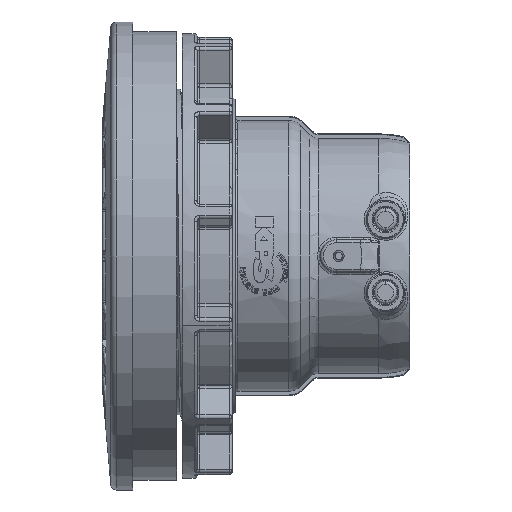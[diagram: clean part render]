
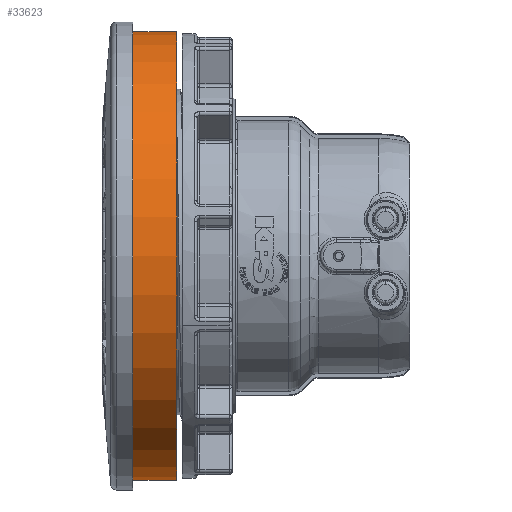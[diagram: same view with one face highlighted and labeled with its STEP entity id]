
A CAD part, left-side view. The second image highlights one B-rep face of the part: STEP entity #33623.
In plain terms, the highlighted cylindrical face has radius 76.75 mm (diameter 153.5 mm), a partial arc.
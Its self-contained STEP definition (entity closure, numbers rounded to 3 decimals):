
#1170 = CIRCLE ( 'NONE', #46920, 76.75 ) ;
#2540 = DIRECTION ( 'NONE',  ( 0., 0., -1. ) ) ;
#2887 = AXIS2_PLACEMENT_3D ( 'NONE', #66031, #31479, #71850 ) ;
#3348 = EDGE_LOOP ( 'NONE', ( #27920, #17129, #35239, #12982 ) ) ;
#4166 = CARTESIAN_POINT ( 'NONE',  ( 0., 52.391, 76.75 ) ) ;
#4608 = VERTEX_POINT ( 'NONE', #63897 ) ;
#5006 = CARTESIAN_POINT ( 'NONE',  ( 0., 67.391, -76.75 ) ) ;
#7124 = EDGE_CURVE ( 'NONE', #8925, #55274, #1170, .T. ) ;
#8925 = VERTEX_POINT ( 'NONE', #4166 ) ;
#12982 = ORIENTED_EDGE ( 'NONE', *, *, #7124, .F. ) ;
#17129 = ORIENTED_EDGE ( 'NONE', *, *, #50232, .T. ) ;
#19441 = CIRCLE ( 'NONE', #2887, 76.75 ) ;
#22498 = CARTESIAN_POINT ( 'NONE',  ( 0., 52.391, -76.75 ) ) ;
#22742 = LINE ( 'NONE', #46595, #51671 ) ;
#27920 = ORIENTED_EDGE ( 'NONE', *, *, #70549, .F. ) ;
#31479 = DIRECTION ( 'NONE',  ( 0., -1., 0. ) ) ;
#32243 = VECTOR ( 'NONE', #72387, 1000. ) ;
#33623 = ADVANCED_FACE ( 'NONE', ( #35831 ), #74702, .T. ) ;
#35239 = ORIENTED_EDGE ( 'NONE', *, *, #53667, .T. ) ;
#35831 = FACE_OUTER_BOUND ( 'NONE', #3348, .T. ) ;
#37039 = DIRECTION ( 'NONE',  ( 0., -1., 0. ) ) ;
#38064 = CARTESIAN_POINT ( 'NONE',  ( 0., 52.391, 76.75 ) ) ;
#40808 = DIRECTION ( 'NONE',  ( 0., -1., 0. ) ) ;
#41155 = AXIS2_PLACEMENT_3D ( 'NONE', #65000, #47360, #68932 ) ;
#46595 = CARTESIAN_POINT ( 'NONE',  ( 0., 52.391, -76.75 ) ) ;
#46920 = AXIS2_PLACEMENT_3D ( 'NONE', #71597, #37039, #2540 ) ;
#47360 = DIRECTION ( 'NONE',  ( 0., -1., 0. ) ) ;
#50232 = EDGE_CURVE ( 'NONE', #4608, #72905, #19441, .T. ) ;
#51671 = VECTOR ( 'NONE', #40808, 1000. ) ;
#53667 = EDGE_CURVE ( 'NONE', #72905, #55274, #22742, .T. ) ;
#55274 = VERTEX_POINT ( 'NONE', #22498 ) ;
#61117 = LINE ( 'NONE', #38064, #32243 ) ;
#63897 = CARTESIAN_POINT ( 'NONE',  ( 0., 67.391, 76.75 ) ) ;
#65000 = CARTESIAN_POINT ( 'NONE',  ( 0., 52.391, 0. ) ) ;
#66031 = CARTESIAN_POINT ( 'NONE',  ( 0., 67.391, 0. ) ) ;
#68932 = DIRECTION ( 'NONE',  ( 0., 0., -1. ) ) ;
#70549 = EDGE_CURVE ( 'NONE', #4608, #8925, #61117, .T. ) ;
#71597 = CARTESIAN_POINT ( 'NONE',  ( 0., 52.391, 0. ) ) ;
#71850 = DIRECTION ( 'NONE',  ( 0., 0., 1. ) ) ;
#72387 = DIRECTION ( 'NONE',  ( 0., -1., 0. ) ) ;
#72905 = VERTEX_POINT ( 'NONE', #5006 ) ;
#74702 = CYLINDRICAL_SURFACE ( 'NONE', #41155, 76.75 ) ;
